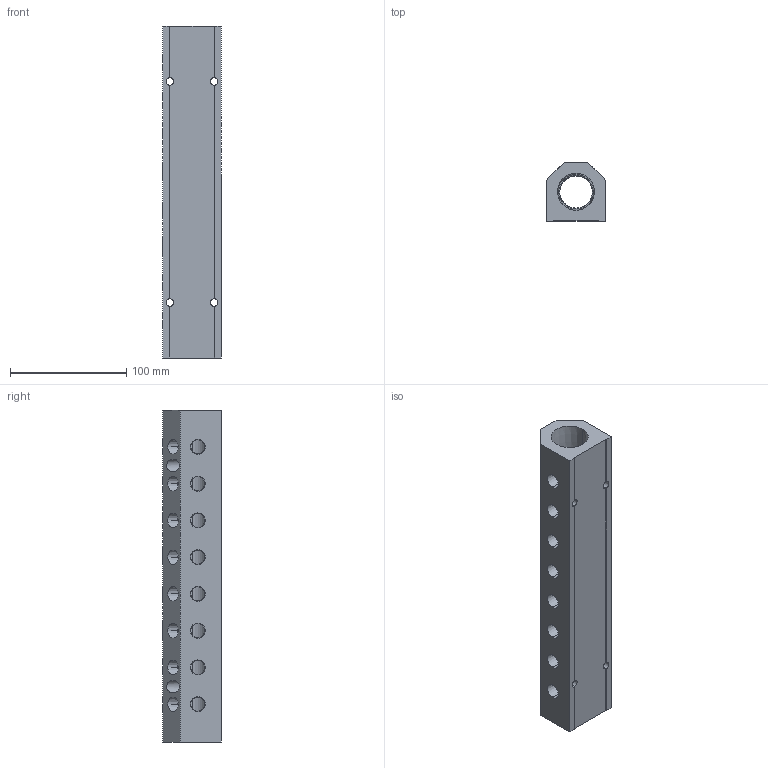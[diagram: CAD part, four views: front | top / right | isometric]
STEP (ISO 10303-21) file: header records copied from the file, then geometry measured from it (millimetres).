
FILE_DESCRIPTION (( 'STEP AP214' ), '1' );
FILE_NAME ('ALM8ABC-N4N16-286B.STEP', '2023-11-02T06:38:29', ( '' ), ( '' ), 'SwSTEP 2.0', 'SolidWorks 2020', '' );
FILE_SCHEMA (( 'AUTOMOTIVE_DESIGN' ));
Length unit declared in the file: millimetre
Products named in the file (1): ALM8ABC-N4N16-286B
Bounding box: 50.8 x 50.8 x 286 mm (x, y, z)
Volume: 438389.2 mm3; surface area: 90988.9 mm2
Topology: 1 solids, 1 shells, 372 faces, 1001 edges, 662 vertices
Faces by surface type: plane 207, bspline 87, cone 56, cylinder 22
Entity records: 22043 total; most frequent: CARTESIAN_POINT 9835, ORIENTED_EDGE 2002, DIRECTION 1411, EDGE_CURVE 1001, VERTEX_POINT 662, VECTOR 655, LINE 655, EDGE_LOOP 461
